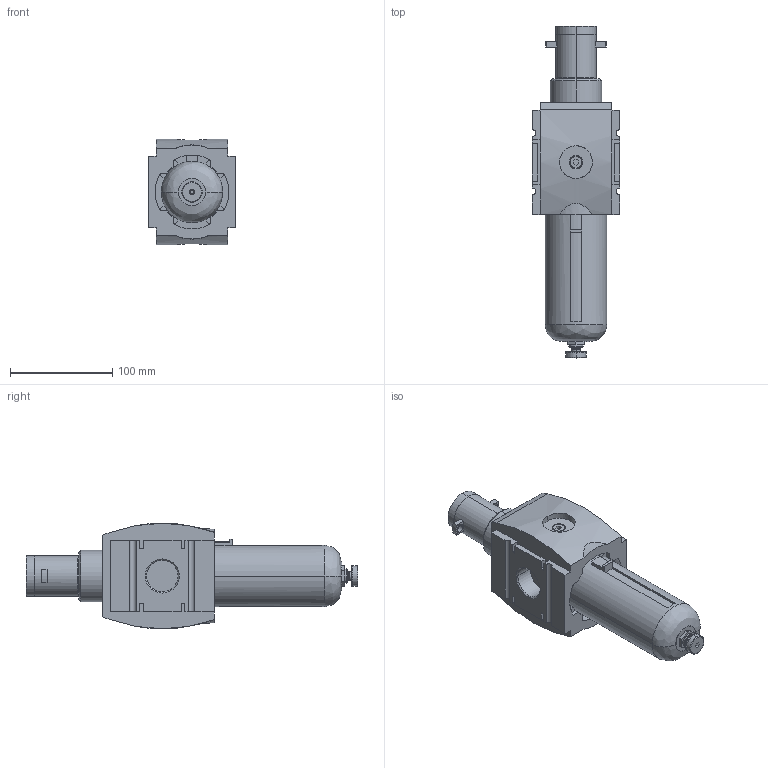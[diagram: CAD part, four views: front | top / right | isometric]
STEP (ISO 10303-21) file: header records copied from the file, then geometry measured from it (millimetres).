
FILE_DESCRIPTION((''),'2;1');
FILE_NAME('R412009184_ASM','2019-08-28T',('PDH2HC'),(''),'CREO PARAMETRIC BY PTC INC, 2016260','CREO PARAMETRIC BY PTC INC, 2016260','');
FILE_SCHEMA(('CONFIG_CONTROL_DESIGN'));
Length unit declared in the file: millimetre
Products named in the file (5): R412009184; AS5_RES_FILTER-SEMI; AS5_DRAIN_KNOB_PC; AS5_PLUG_14; R412009184_ASM
Assembly tree (5 placements, depth 2):
  R412009184_ASM
    R412009184
    AS5_RES_FILTER-SEMI
    AS5_DRAIN_KNOB_PC
    AS5_PLUG_14  x2
Bounding box: 85 x 324.3 x 103 mm (x, y, z)
Volume: 1218898.8 mm3; surface area: 120017.2 mm2
Topology: 5 solids, 5 shells, 286 faces, 698 edges, 454 vertices
Faces by surface type: plane 178, cylinder 74, cone 28, torus 4, bspline 2
Entity records: 8548 total; most frequent: CARTESIAN_POINT 1799, DIRECTION 1428, ORIENTED_EDGE 1332, EDGE_CURVE 666, AXIS2_PLACEMENT_3D 489, VECTOR 450, LINE 450, VERTEX_POINT 434
